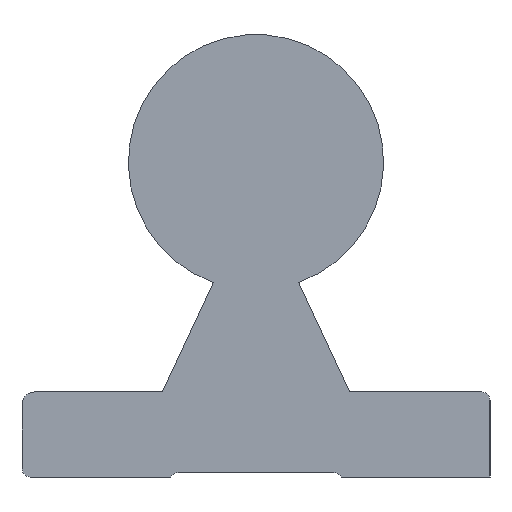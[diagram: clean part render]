
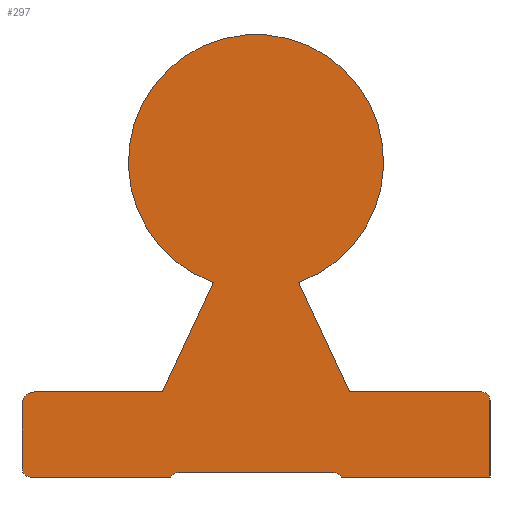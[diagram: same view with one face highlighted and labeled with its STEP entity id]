
A CAD part, left-side view. The second image highlights one B-rep face of the part: STEP entity #297.
In plain terms, the highlighted planar face has unit normal (-1, 0, 0).
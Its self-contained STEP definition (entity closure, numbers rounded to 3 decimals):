
#49=CARTESIAN_POINT('',(0.0,-9.134,0.5));
#50=VERTEX_POINT('',#49);
#51=CARTESIAN_POINT('',(0.0,-10.0,0.0));
#52=VERTEX_POINT('',#51);
#53=CARTESIAN_POINT('',(0.0,-9.134,-0.5));
#54=DIRECTION('',(-1.0,0.0,0.0));
#55=DIRECTION('',(0.0,-0.866,0.5));
#56=AXIS2_PLACEMENT_3D('',#53,#54,#55);
#57=CIRCLE('',#56,1.0);
#58=EDGE_CURVE('',#50,#52,#57,.F.);
#102=CARTESIAN_POINT('',(0.0,9.134,0.5));
#103=VERTEX_POINT('',#102);
#110=CARTESIAN_POINT('',(0.0,10.0,0.0));
#111=VERTEX_POINT('',#110);
#112=CARTESIAN_POINT('',(0.0,9.134,-0.5));
#113=DIRECTION('',(-1.0,0.0,0.0));
#114=DIRECTION('',(0.0,0.866,0.5));
#115=AXIS2_PLACEMENT_3D('',#112,#113,#114);
#116=CIRCLE('',#115,1.0);
#117=EDGE_CURVE('',#111,#103,#116,.F.);
#144=CARTESIAN_POINT('',(0.0,26.5,0.0));
#145=VERTEX_POINT('',#144);
#152=CARTESIAN_POINT('',(0.0,27.5,1.0));
#153=VERTEX_POINT('',#152);
#154=CARTESIAN_POINT('',(0.0,26.5,1.0));
#155=DIRECTION('',(1.,0.0,0.0));
#156=DIRECTION('',(0.0,0.707,-0.707));
#157=AXIS2_PLACEMENT_3D('',#154,#155,#156);
#158=CIRCLE('',#157,1.);
#159=EDGE_CURVE('',#145,#153,#158,.T.);
#176=CARTESIAN_POINT('',(0.0,27.5,8.5));
#177=VERTEX_POINT('',#176);
#178=CARTESIAN_POINT('',(0.0,27.5,1.0));
#179=DIRECTION('',(0.0,0.0,1.0));
#180=VECTOR('',#179,7.5);
#181=LINE('',#178,#180);
#182=EDGE_CURVE('',#153,#177,#181,.T.);
#201=CARTESIAN_POINT('',(0.0,18.75,0.25));
#202=DIRECTION('',(1.0,0.0,0.0));
#203=DIRECTION('',(0.0,0.0,-1.0));
#204=AXIS2_PLACEMENT_3D('',#201,#202,#203);
#205=PLANE('',#204);
#206=ORIENTED_EDGE('',*,*,#159,.F.);
#207=CARTESIAN_POINT('',(0.0,10.0,0.0));
#208=DIRECTION('',(0.0,1.0,0.0));
#209=VECTOR('',#208,16.5);
#210=LINE('',#207,#209);
#211=EDGE_CURVE('',#111,#145,#210,.T.);
#212=ORIENTED_EDGE('',*,*,#211,.F.);
#213=ORIENTED_EDGE('',*,*,#117,.T.);
#214=CARTESIAN_POINT('',(0.0,-9.134,0.5));
#215=DIRECTION('',(0.0,1.0,0.0));
#216=VECTOR('',#215,18.268);
#217=LINE('',#214,#216);
#218=EDGE_CURVE('',#50,#103,#217,.T.);
#219=ORIENTED_EDGE('',*,*,#218,.F.);
#220=ORIENTED_EDGE('',*,*,#58,.T.);
#221=CARTESIAN_POINT('',(0.0,-27.5,0.0));
#222=VERTEX_POINT('',#221);
#223=CARTESIAN_POINT('',(0.0,-27.5,0.0));
#224=DIRECTION('',(0.0,1.0,0.0));
#225=VECTOR('',#224,17.5);
#226=LINE('',#223,#225);
#227=EDGE_CURVE('',#222,#52,#226,.T.);
#228=ORIENTED_EDGE('',*,*,#227,.F.);
#229=CARTESIAN_POINT('',(0.0,-27.5,9.0));
#230=VERTEX_POINT('',#229);
#231=CARTESIAN_POINT('',(0.0,-27.5,9.0));
#232=DIRECTION('',(0.0,0.0,-1.0));
#233=VECTOR('',#232,9.0);
#234=LINE('',#231,#233);
#235=EDGE_CURVE('',#230,#222,#234,.T.);
#236=ORIENTED_EDGE('',*,*,#235,.F.);
#237=CARTESIAN_POINT('',(0.0,-26.5,10.));
#238=VERTEX_POINT('',#237);
#239=CARTESIAN_POINT('',(0.0,-26.5,9.0));
#240=DIRECTION('',(1.0,0.0,0.0));
#241=DIRECTION('',(0.0,-0.707,0.707));
#242=AXIS2_PLACEMENT_3D('',#239,#240,#241);
#243=CIRCLE('',#242,1.);
#244=EDGE_CURVE('',#238,#230,#243,.T.);
#245=ORIENTED_EDGE('',*,*,#244,.F.);
#246=CARTESIAN_POINT('',(0.0,-10.996,10.));
#247=VERTEX_POINT('',#246);
#248=CARTESIAN_POINT('',(0.0,-10.996,10.));
#249=DIRECTION('',(0.0,-1.0,0.0));
#250=VECTOR('',#249,15.504);
#251=LINE('',#248,#250);
#252=EDGE_CURVE('',#247,#238,#251,.T.);
#253=ORIENTED_EDGE('',*,*,#252,.F.);
#254=CARTESIAN_POINT('',(0.0,-5.,22.858));
#255=VERTEX_POINT('',#254);
#256=CARTESIAN_POINT('',(0.0,-5.,22.858));
#257=DIRECTION('',(0.0,-0.423,-0.906));
#258=VECTOR('',#257,14.187);
#259=LINE('',#256,#258);
#260=EDGE_CURVE('',#255,#247,#259,.T.);
#261=ORIENTED_EDGE('',*,*,#260,.F.);
#262=CARTESIAN_POINT('',(0.0,5.,22.858));
#263=VERTEX_POINT('',#262);
#264=CARTESIAN_POINT('',(0.0,0.,37.));
#265=DIRECTION('',(1.0,0.0,0.0));
#266=DIRECTION('',(0.0,1.0,0.0));
#267=AXIS2_PLACEMENT_3D('',#264,#265,#266);
#268=CIRCLE('',#267,15.0);
#269=EDGE_CURVE('',#263,#255,#268,.T.);
#270=ORIENTED_EDGE('',*,*,#269,.F.);
#271=CARTESIAN_POINT('',(0.0,10.996,10.));
#272=VERTEX_POINT('',#271);
#273=CARTESIAN_POINT('',(0.0,10.996,10.));
#274=DIRECTION('',(0.0,-0.423,0.906));
#275=VECTOR('',#274,14.187);
#276=LINE('',#273,#275);
#277=EDGE_CURVE('',#272,#263,#276,.T.);
#278=ORIENTED_EDGE('',*,*,#277,.F.);
#279=CARTESIAN_POINT('',(0.0,26.0,10.));
#280=VERTEX_POINT('',#279);
#281=CARTESIAN_POINT('',(0.0,26.0,10.));
#282=DIRECTION('',(0.0,-1.0,0.0));
#283=VECTOR('',#282,15.004);
#284=LINE('',#281,#283);
#285=EDGE_CURVE('',#280,#272,#284,.T.);
#286=ORIENTED_EDGE('',*,*,#285,.F.);
#287=CARTESIAN_POINT('',(0.0,26.0,8.5));
#288=DIRECTION('',(1.0,0.0,0.0));
#289=DIRECTION('',(0.0,0.707,0.707));
#290=AXIS2_PLACEMENT_3D('',#287,#288,#289);
#291=CIRCLE('',#290,1.5);
#292=EDGE_CURVE('',#177,#280,#291,.T.);
#293=ORIENTED_EDGE('',*,*,#292,.F.);
#294=ORIENTED_EDGE('',*,*,#182,.F.);
#295=EDGE_LOOP('',(#206,#212,#213,#219,#220,#228,#236,#245,#253,#261,#270,#278,#286,#293,#294));
#296=FACE_OUTER_BOUND('',#295,.T.);
#297=ADVANCED_FACE('',(#296),#205,.F.);
